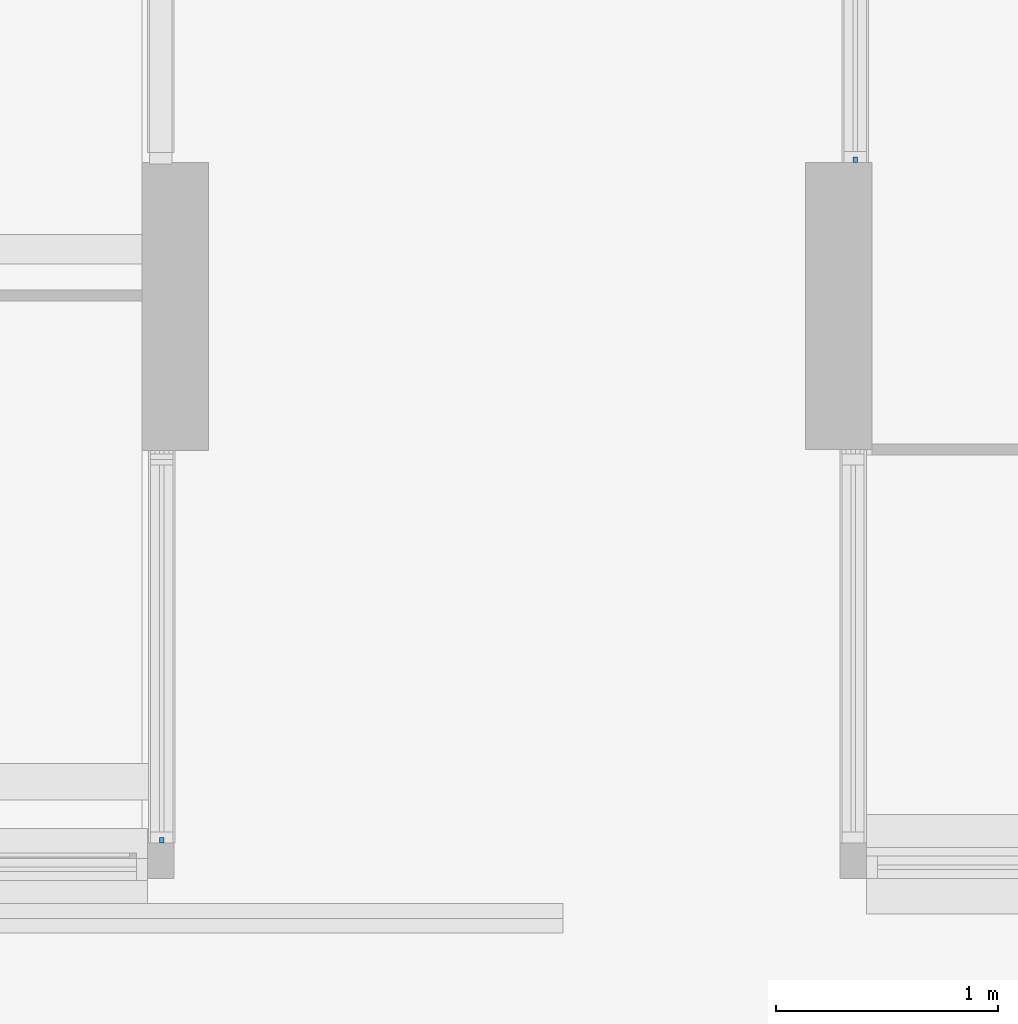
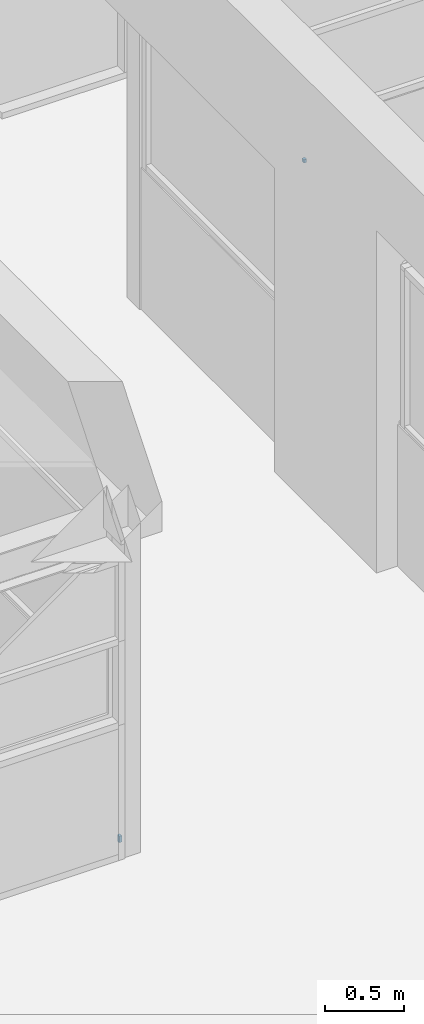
# One storey, part 63 of 117: 2 plates, 2 elements without a shape of their own.
"""IFC4 building model written with IfcOpenShell, lengths in metres."""

from ifc_helpers import new_model, entity, si_unit, converted_unit, derived_unit, direction, frame, origin, place, context, subcontext, project, spatial, indexed_curve, outline, extrude, source, transform, mapped, material, type_object, type_shapes, element, aggregate, save


model = new_model("IFC4")

# Units and contexts
model_context = context("Model", 3, precision=1e-05, world=origin(), true_north=direction((6.123031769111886e-17, 1.0)))
body_context = subcontext(model_context, "Body", "Model", "MODEL_VIEW")
ifc_project = project(units=[si_unit("LENGTHUNIT", "METRE"), si_unit("AREAUNIT", "SQUARE_METRE"), si_unit("VOLUMEUNIT", "CUBIC_METRE"), converted_unit("PLANEANGLEUNIT", "DEGREE", entity("IfcRatioMeasure", 0.017453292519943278), si_unit("PLANEANGLEUNIT", "RADIAN"), dimensions=[0, 0, 0, 0, 0, 0, 0]), si_unit("MASSUNIT", "GRAM", prefix="KILO"), derived_unit("MASSDENSITYUNIT", [(si_unit("MASSUNIT", "GRAM", prefix="KILO"), 1), (si_unit("LENGTHUNIT", "METRE"), -3)]), derived_unit("MOMENTOFINERTIAUNIT", [(si_unit("LENGTHUNIT", "METRE"), 4)]), si_unit("TIMEUNIT", "SECOND"), si_unit("FREQUENCYUNIT", "HERTZ"), si_unit("THERMODYNAMICTEMPERATUREUNIT", "DEGREE_CELSIUS"), derived_unit("THERMALTRANSMITTANCEUNIT", [(si_unit("MASSUNIT", "GRAM", prefix="KILO"), 1), (si_unit("THERMODYNAMICTEMPERATUREUNIT", "KELVIN"), -1), (si_unit("TIMEUNIT", "SECOND"), -3)]), derived_unit("VOLUMETRICFLOWRATEUNIT", [(si_unit("LENGTHUNIT", "METRE"), 3), (si_unit("TIMEUNIT", "SECOND"), -1)]), derived_unit("MASSFLOWRATEUNIT", [(si_unit("MASSUNIT", "GRAM", prefix="KILO"), 1), (si_unit("TIMEUNIT", "SECOND"), -1)]), derived_unit("ROTATIONALFREQUENCYUNIT", [(si_unit("TIMEUNIT", "SECOND"), -1)]), si_unit("ELECTRICCURRENTUNIT", "AMPERE"), si_unit("ELECTRICVOLTAGEUNIT", "VOLT"), si_unit("POWERUNIT", "WATT"), si_unit("FORCEUNIT", "NEWTON", prefix="KILO"), si_unit("ILLUMINANCEUNIT", "LUX"), si_unit("LUMINOUSFLUXUNIT", "LUMEN"), si_unit("LUMINOUSINTENSITYUNIT", "CANDELA"), derived_unit("USERDEFINED", [(si_unit("MASSUNIT", "GRAM", prefix="KILO"), -1), (si_unit("LENGTHUNIT", "METRE"), -2), (si_unit("TIMEUNIT", "SECOND"), 3), (si_unit("LUMINOUSFLUXUNIT", "LUMEN"), 1)]), derived_unit("SOUNDPOWERUNIT", [(si_unit("MASSUNIT", "GRAM", prefix="KILO"), 1), (si_unit("LENGTHUNIT", "METRE"), 2), (si_unit("TIMEUNIT", "SECOND"), -3)]), derived_unit("SOUNDPRESSUREUNIT", [(si_unit("MASSUNIT", "GRAM", prefix="KILO"), 1), (si_unit("LENGTHUNIT", "METRE"), -1), (si_unit("TIMEUNIT", "SECOND"), -2)]), derived_unit("LINEARVELOCITYUNIT", [(si_unit("LENGTHUNIT", "METRE"), 1), (si_unit("TIMEUNIT", "SECOND"), -1)]), si_unit("PRESSUREUNIT", "PASCAL"), derived_unit("USERDEFINED", [(si_unit("LENGTHUNIT", "METRE"), -2), (si_unit("MASSUNIT", "GRAM", prefix="KILO"), 1), (si_unit("TIMEUNIT", "SECOND"), -2)]), derived_unit("LINEARFORCEUNIT", [(si_unit("MASSUNIT", "GRAM", prefix="KILO"), 1), (si_unit("LENGTHUNIT", "METRE"), 1), (si_unit("TIMEUNIT", "SECOND"), -2), (si_unit("LENGTHUNIT", "METRE"), -1)]), derived_unit("PLANARFORCEUNIT", [(si_unit("MASSUNIT", "GRAM", prefix="KILO"), 1), (si_unit("LENGTHUNIT", "METRE"), 1), (si_unit("TIMEUNIT", "SECOND"), -2), (si_unit("LENGTHUNIT", "METRE"), -2)])], contexts=[model_context])

# Site, building, storey
site_placement = place(None, origin())
site = spatial("IfcSite", under=ifc_project, at=site_placement, Name="Superficie", CompositionType="ELEMENT")
building_placement = place(site_placement, origin())
building = spatial("IfcBuilding", under=site, at=building_placement, CompositionType="ELEMENT")
storey_placement = place(building_placement, origin())
storey = spatial("IfcBuildingStorey", under=building, at=storey_placement, Name="Nivel 0", CompositionType="ELEMENT", Elevation=0.0)

# Curtain wall, plate
curtain_wall_type = type_object("IfcCurtainWallType", Name="Muro cortina:Muro cortina - simple", PredefinedType="NOTDEFINED")
curtain_wall_1_placement = place(storey_placement, origin())
curtain_wall_1 = element("IfcCurtainWall", 1, at=curtain_wall_1_placement, inside=storey, type_object=curtain_wall_type, Name="Muro cortina:Muro cortina - simple", ObjectType="Muro cortina:Muro cortina - simple", PredefinedType="NOTDEFINED")
ifc_material = material(Name="Cristal", Category="Vidrio")
plate_type_1 = type_object("IfcPlateType", Name="Panel de sistema:Acristalado", PredefinedType="CURTAIN_PANEL", material=ifc_material)
shared_shape_1 = source(origin(), body_context, "Body", "SweptSolid", [
    extrude(outline(indexed_curve([(-0.01, -0.0125), (0.01, -0.0125), (0.01, 0.0125), (-0.01, 0.0125), (-0.01, -0.0125)], self_intersect=False)), frame((0.0, 0.0, 0.0), z_axis=(0.0, 0.0, 1.0), x_axis=(0.0, 1.0, 0.0)), (0.0, 0.0, 1.0), 0.05),
])
type_shapes(plate_type_1, [shared_shape_1])
plate_1_placement = place(curtain_wall_1_placement, frame((12.786799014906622, -1.6016707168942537, 0.0), z_axis=(0.0, 0.0, 1.0), x_axis=(0.0, -1.0, 0.0)))
plate_1 = element("IfcPlate", 2, at=plate_1_placement, type_object=plate_type_1, material=ifc_material, Name="Panel de sistema:Acristalado", ObjectType="Panel de sistema:Acristalado", PredefinedType="CURTAIN_PANEL", context=body_context, shape_type="MappedRepresentation", body=[
    mapped(shared_shape_1, transform((0.0, 0.0, 0.0), scale=1.0)),
])
aggregate(curtain_wall_1, [plate_1])

curtain_wall_2_placement = place(storey_placement, origin())
curtain_wall_2 = element("IfcCurtainWall", 3, at=curtain_wall_2_placement, inside=storey, type_object=curtain_wall_type, Name="Muro cortina:Muro cortina - simple", ObjectType="Muro cortina:Muro cortina - simple", PredefinedType="NOTDEFINED")
plate_type_2 = type_object("IfcPlateType", Name="Panel de sistema:Acristalado", PredefinedType="CURTAIN_PANEL", material=ifc_material)
shared_shape_2 = source(origin(), body_context, "Body", "SweptSolid", [
    extrude(outline(indexed_curve([(-0.01, -0.012500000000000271), (0.01, -0.012500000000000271), (0.01, 0.012500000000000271), (-0.01, 0.012500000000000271), (-0.01, -0.012500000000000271)], self_intersect=False)), frame((0.0, 0.0, 0.0), z_axis=(0.0, 0.0, 1.0), x_axis=(0.0, 1.0, 0.0)), (0.0, 0.0, 1.0), 0.025),
])
type_shapes(plate_type_2, [shared_shape_2])
plate_2_placement = place(curtain_wall_2_placement, frame((15.916799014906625, 1.4683292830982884, 2.3249999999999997), z_axis=(0.0, 0.0, 1.0), x_axis=(0.0, -1.0, 0.0)))
plate_2 = element("IfcPlate", 4, at=plate_2_placement, type_object=plate_type_2, material=ifc_material, Name="Panel de sistema:Acristalado", ObjectType="Panel de sistema:Acristalado", PredefinedType="CURTAIN_PANEL", context=body_context, shape_type="MappedRepresentation", body=[
    mapped(shared_shape_2, transform((0.0, 0.0, 0.0), scale=1.0)),
])
aggregate(curtain_wall_2, [plate_2])

save(model, "model.ifc")
